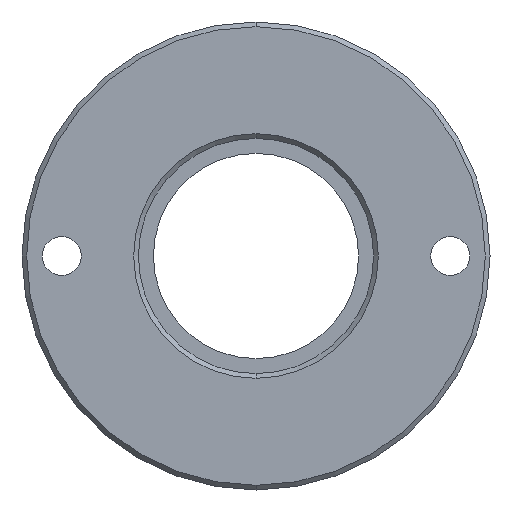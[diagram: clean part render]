
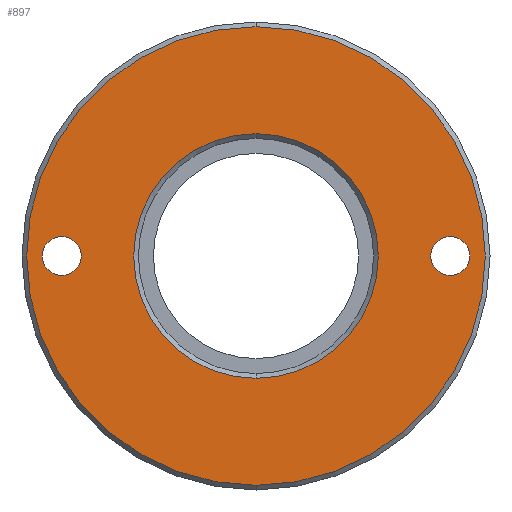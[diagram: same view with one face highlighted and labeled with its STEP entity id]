
A CAD part, front view. The second image highlights one B-rep face of the part: STEP entity #897.
In plain terms, the highlighted planar face has unit normal (0, -1, 0).
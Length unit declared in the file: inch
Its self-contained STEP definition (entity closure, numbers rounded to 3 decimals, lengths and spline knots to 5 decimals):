
#96 = ORIENTED_EDGE ( 'NONE', *, *, #4966, .T. ) ;
#179 = CARTESIAN_POINT ( 'NONE',  ( -1.65625, 0., 0.166 ) ) ;
#251 = DIRECTION ( 'NONE',  ( 0., 0., 1. ) ) ;
#273 = EDGE_LOOP ( 'NONE', ( #8430, #7089 ) ) ;
#436 = CARTESIAN_POINT ( 'NONE',  ( 0., 0., 1.955 ) ) ;
#770 = AXIS2_PLACEMENT_3D ( 'NONE', #7190, #5121, #4166 ) ;
#897 = ADVANCED_FACE ( 'NONE', ( #10927, #4477, #8257, #6217 ), #5775, .F. ) ;
#1372 = CARTESIAN_POINT ( 'NONE',  ( 0., 0., 0. ) ) ;
#1517 = DIRECTION ( 'NONE',  ( 0., 1., 0. ) ) ;
#1546 = VERTEX_POINT ( 'NONE', #1754 ) ;
#1666 = AXIS2_PLACEMENT_3D ( 'NONE', #11336, #5329, #7127 ) ;
#1754 = CARTESIAN_POINT ( 'NONE',  ( 0., 0., 1.0425 ) ) ;
#2184 = EDGE_LOOP ( 'NONE', ( #7791, #6876 ) ) ;
#2329 = CARTESIAN_POINT ( 'NONE',  ( 0., 0., -1.955 ) ) ;
#2551 = DIRECTION ( 'NONE',  ( 0., 0., 1. ) ) ;
#2588 = AXIS2_PLACEMENT_3D ( 'NONE', #5667, #11735, #5582 ) ;
#3061 = AXIS2_PLACEMENT_3D ( 'NONE', #9395, #1517, #2551 ) ;
#3094 = CIRCLE ( 'NONE', #2588, 1.955 ) ;
#3231 = AXIS2_PLACEMENT_3D ( 'NONE', #7924, #8002, #3972 ) ;
#3764 = DIRECTION ( 'NONE',  ( 0., 1., 0. ) ) ;
#3804 = EDGE_LOOP ( 'NONE', ( #9220, #8629 ) ) ;
#3855 = CARTESIAN_POINT ( 'NONE',  ( 0., 0., 0. ) ) ;
#3899 = DIRECTION ( 'NONE',  ( 1., 0., 0. ) ) ;
#3972 = DIRECTION ( 'NONE',  ( 0., 0., 1. ) ) ;
#3975 = AXIS2_PLACEMENT_3D ( 'NONE', #3855, #9045, #12911 ) ;
#4166 = DIRECTION ( 'NONE',  ( 0., 0., -1. ) ) ;
#4213 = CARTESIAN_POINT ( 'NONE',  ( 1.65625, 0., 0.166 ) ) ;
#4304 = VERTEX_POINT ( 'NONE', #6550 ) ;
#4477 = FACE_BOUND ( 'NONE', #9527, .T. ) ;
#4589 = CIRCLE ( 'NONE', #10309, 0.166 ) ;
#4966 = EDGE_CURVE ( 'NONE', #12931, #10856, #4589, .T. ) ;
#5121 = DIRECTION ( 'NONE',  ( 0., 1., 0. ) ) ;
#5329 = DIRECTION ( 'NONE',  ( 0., 1., 0. ) ) ;
#5428 = EDGE_CURVE ( 'NONE', #1546, #10373, #11189, .T. ) ;
#5451 = DIRECTION ( 'NONE',  ( 0., -1., 0. ) ) ;
#5582 = DIRECTION ( 'NONE',  ( 0., 0., 1. ) ) ;
#5667 = CARTESIAN_POINT ( 'NONE',  ( 0., 0., 0. ) ) ;
#5775 = PLANE ( 'NONE',  #11480 ) ;
#6005 = DIRECTION ( 'NONE',  ( 0., 0., -1. ) ) ;
#6217 = FACE_BOUND ( 'NONE', #3804, .T. ) ;
#6329 = EDGE_CURVE ( 'NONE', #4304, #12899, #9929, .T. ) ;
#6354 = VERTEX_POINT ( 'NONE', #436 ) ;
#6550 = CARTESIAN_POINT ( 'NONE',  ( 1.65625, 0., -0.166 ) ) ;
#6657 = EDGE_CURVE ( 'NONE', #10373, #1546, #8821, .T. ) ;
#6855 = EDGE_CURVE ( 'NONE', #10995, #6354, #7907, .T. ) ;
#6876 = ORIENTED_EDGE ( 'NONE', *, *, #8202, .T. ) ;
#7089 = ORIENTED_EDGE ( 'NONE', *, *, #6855, .T. ) ;
#7127 = DIRECTION ( 'NONE',  ( 0., 0., 1. ) ) ;
#7190 = CARTESIAN_POINT ( 'NONE',  ( -1.65625, 0., 0. ) ) ;
#7201 = CARTESIAN_POINT ( 'NONE',  ( -1.65625, 0., 0. ) ) ;
#7466 = EDGE_CURVE ( 'NONE', #10856, #12931, #9764, .T. ) ;
#7791 = ORIENTED_EDGE ( 'NONE', *, *, #6329, .T. ) ;
#7907 = CIRCLE ( 'NONE', #9979, 1.955 ) ;
#7924 = CARTESIAN_POINT ( 'NONE',  ( 0., 0., 0. ) ) ;
#8002 = DIRECTION ( 'NONE',  ( 0., 1., 0. ) ) ;
#8069 = DIRECTION ( 'NONE',  ( 0., 1., 0. ) ) ;
#8174 = CIRCLE ( 'NONE', #1666, 0.166 ) ;
#8202 = EDGE_CURVE ( 'NONE', #12899, #4304, #8174, .T. ) ;
#8257 = FACE_BOUND ( 'NONE', #2184, .T. ) ;
#8430 = ORIENTED_EDGE ( 'NONE', *, *, #11228, .T. ) ;
#8629 = ORIENTED_EDGE ( 'NONE', *, *, #5428, .T. ) ;
#8821 = CIRCLE ( 'NONE', #3231, 1.0425 ) ;
#9045 = DIRECTION ( 'NONE',  ( 0., 1., 0. ) ) ;
#9220 = ORIENTED_EDGE ( 'NONE', *, *, #6657, .T. ) ;
#9395 = CARTESIAN_POINT ( 'NONE',  ( 1.65625, 0., 0. ) ) ;
#9442 = CARTESIAN_POINT ( 'NONE',  ( 0., 0., -1.0425 ) ) ;
#9491 = ORIENTED_EDGE ( 'NONE', *, *, #7466, .T. ) ;
#9527 = EDGE_LOOP ( 'NONE', ( #9491, #96 ) ) ;
#9764 = CIRCLE ( 'NONE', #770, 0.166 ) ;
#9929 = CIRCLE ( 'NONE', #3061, 0.166 ) ;
#9937 = CARTESIAN_POINT ( 'NONE',  ( 0., 0., 0. ) ) ;
#9979 = AXIS2_PLACEMENT_3D ( 'NONE', #1372, #5451, #251 ) ;
#10309 = AXIS2_PLACEMENT_3D ( 'NONE', #7201, #8069, #6005 ) ;
#10373 = VERTEX_POINT ( 'NONE', #9442 ) ;
#10856 = VERTEX_POINT ( 'NONE', #12152 ) ;
#10927 = FACE_OUTER_BOUND ( 'NONE', #273, .T. ) ;
#10995 = VERTEX_POINT ( 'NONE', #2329 ) ;
#11189 = CIRCLE ( 'NONE', #3975, 1.0425 ) ;
#11228 = EDGE_CURVE ( 'NONE', #6354, #10995, #3094, .T. ) ;
#11336 = CARTESIAN_POINT ( 'NONE',  ( 1.65625, 0., 0. ) ) ;
#11480 = AXIS2_PLACEMENT_3D ( 'NONE', #9937, #3764, #3899 ) ;
#11735 = DIRECTION ( 'NONE',  ( 0., -1., 0. ) ) ;
#12152 = CARTESIAN_POINT ( 'NONE',  ( -1.65625, 0., -0.166 ) ) ;
#12899 = VERTEX_POINT ( 'NONE', #4213 ) ;
#12911 = DIRECTION ( 'NONE',  ( 0., 0., 1. ) ) ;
#12931 = VERTEX_POINT ( 'NONE', #179 ) ;
